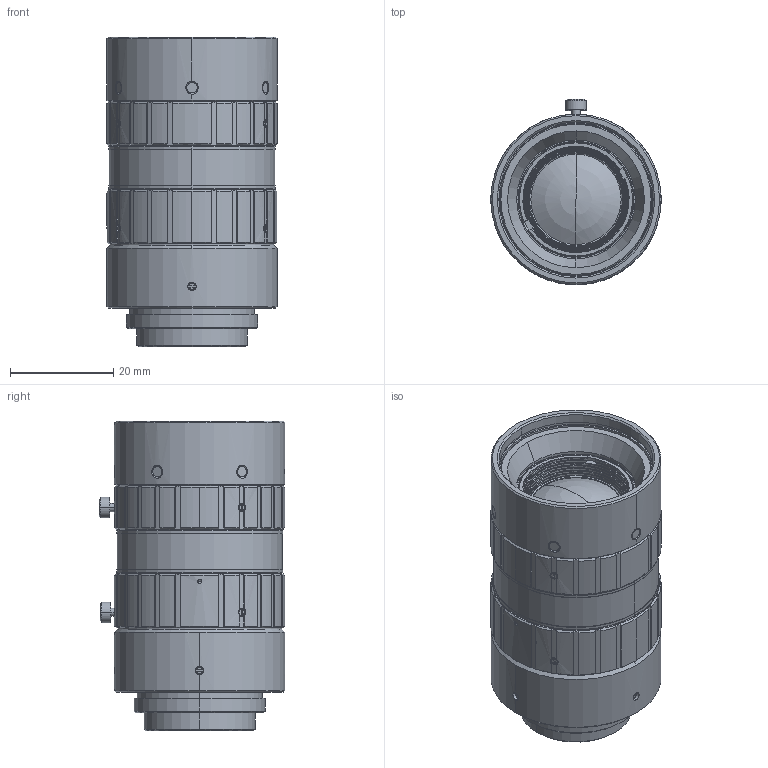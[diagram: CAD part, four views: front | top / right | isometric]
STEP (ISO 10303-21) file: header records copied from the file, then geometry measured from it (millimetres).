
FILE_DESCRIPTION(('CoCreate Modeling STEP Export'),'2;1');
FILE_NAME('HF1218-12M_3D-outline.STEP','2022-05-31T12:40:55',(''),(''),'CoCreate Modeling STEP processor for AP214 (Solid Model)','CoCreate Modeling 17.0 01-Apr-2010 (C) Parametric Technology GmbH','');
FILE_SCHEMA(('AUTOMOTIVE_DESIGN { 1 0 10303 214 1 1 1 1 }'));
Length unit declared in the file: millimetre
Products named in the file (2): HF1218-12M
Assembly tree (1 placements, depth 2):
  HF1218-12M
    HF1218-12M
Bounding box: 33 x 35.95 x 60.01 mm (x, y, z)
Volume: 40264.1 mm3; surface area: 9688.8 mm2
Topology: 1 solids, 1 shells, 482 faces, 1294 edges, 840 vertices
Faces by surface type: cylinder 192, plane 180, cone 92, torus 14, sphere 4
Entity records: 14361 total; most frequent: CARTESIAN_POINT 3163, ORIENTED_EDGE 2576, DIRECTION 2090, EDGE_CURVE 1288, VERTEX_POINT 840, AXIS2_PLACEMENT_3D 725, VECTOR 640, LINE 640
